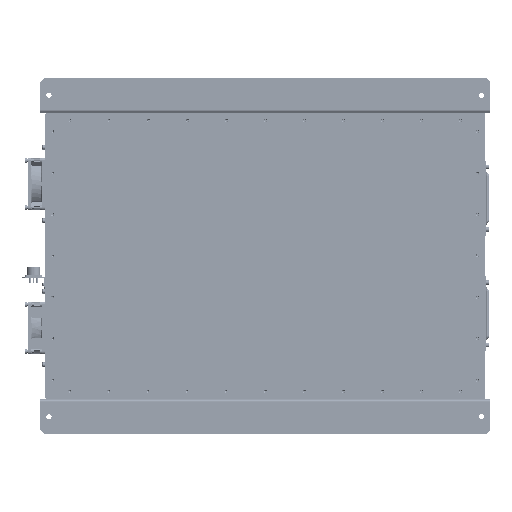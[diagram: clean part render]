
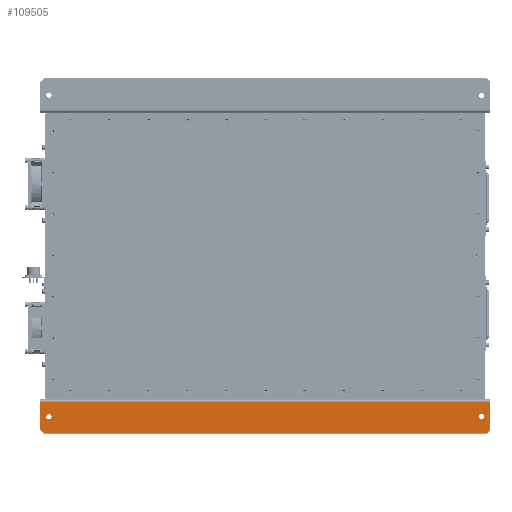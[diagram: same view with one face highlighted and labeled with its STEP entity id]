
A CAD part, top view. The second image highlights one B-rep face of the part: STEP entity #109505.
In plain terms, the highlighted planar face has unit normal (0, 0, 1).
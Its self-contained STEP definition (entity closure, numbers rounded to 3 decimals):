
#7876=LINE('',#170377,#16521);
#7880=LINE('',#170386,#16525);
#7890=LINE('',#170411,#16535);
#7896=LINE('',#170488,#16541);
#7901=LINE('',#170494,#16546);
#7903=LINE('',#170498,#16548);
#16521=VECTOR('',#138558,1000.);
#16525=VECTOR('',#138564,1000.);
#16535=VECTOR('',#138582,1000.);
#16541=VECTOR('',#138670,1000.);
#16546=VECTOR('',#138677,1000.);
#16548=VECTOR('',#138683,1000.);
#23226=PLANE('',#122251);
#34667=ORIENTED_EDGE('',*,*,#61841,.F.);
#34668=ORIENTED_EDGE('',*,*,#61792,.T.);
#34669=ORIENTED_EDGE('',*,*,#61843,.T.);
#34670=ORIENTED_EDGE('',*,*,#61788,.F.);
#34671=ORIENTED_EDGE('',*,*,#61836,.T.);
#34672=ORIENTED_EDGE('',*,*,#61803,.F.);
#34673=ORIENTED_EDGE('',*,*,#61833,.T.);
#34674=ORIENTED_EDGE('',*,*,#61831,.T.);
#61788=EDGE_CURVE('',#76146,#76147,#7876,.T.);
#61792=EDGE_CURVE('',#76151,#76150,#7880,.T.);
#61803=EDGE_CURVE('',#76160,#76162,#7890,.T.);
#61831=EDGE_CURVE('',#76189,#76189,#84737,.T.);
#61833=EDGE_CURVE('',#76191,#76191,#84739,.T.);
#61836=EDGE_CURVE('',#76146,#76162,#7896,.T.);
#61841=EDGE_CURVE('',#76151,#76160,#7901,.T.);
#61843=EDGE_CURVE('',#76150,#76147,#7903,.T.);
#76146=VERTEX_POINT('',#170376);
#76147=VERTEX_POINT('',#170378);
#76150=VERTEX_POINT('',#170385);
#76151=VERTEX_POINT('',#170387);
#76160=VERTEX_POINT('',#170409);
#76162=VERTEX_POINT('',#170412);
#76189=VERTEX_POINT('',#170479);
#76191=VERTEX_POINT('',#170484);
#84737=CIRCLE('',#122244,4.);
#84739=CIRCLE('',#122247,4.);
#90409=EDGE_LOOP('',(#34667,#34668,#34669,#34670,#34671,#34672));
#90410=EDGE_LOOP('',(#34673));
#90411=EDGE_LOOP('',(#34674));
#100147=FACE_BOUND('',#90409,.T.);
#100148=FACE_BOUND('',#90410,.T.);
#100149=FACE_BOUND('',#90411,.T.);
#109505=ADVANCED_FACE('',(#100147,#100148,#100149),#23226,.F.);
#122244=AXIS2_PLACEMENT_3D('',#170478,#138658,#138659);
#122247=AXIS2_PLACEMENT_3D('',#170483,#138664,#138665);
#122251=AXIS2_PLACEMENT_3D('',#170497,#138681,#138682);
#138558=DIRECTION('',(-0.707,-0.707,0.));
#138564=DIRECTION('',(0.707,-0.707,0.));
#138582=DIRECTION('',(1.,0.,0.));
#138658=DIRECTION('',(0.,0.,-1.));
#138659=DIRECTION('',(1.,0.,0.));
#138664=DIRECTION('',(0.,0.,-1.));
#138665=DIRECTION('',(1.,0.,0.));
#138670=DIRECTION('',(0.,1.,0.));
#138677=DIRECTION('',(0.,1.,0.));
#138681=DIRECTION('',(0.,0.,-1.));
#138682=DIRECTION('',(1.,0.,0.));
#138683=DIRECTION('',(1.,0.,0.));
#170376=CARTESIAN_POINT('',(342.,-265.,143.));
#170377=CARTESIAN_POINT('',(337.,-270.,143.));
#170378=CARTESIAN_POINT('',(337.,-270.,143.));
#170385=CARTESIAN_POINT('',(-337.,-270.,143.));
#170386=CARTESIAN_POINT('',(-342.,-265.,143.));
#170387=CARTESIAN_POINT('',(-342.,-265.,143.));
#170409=CARTESIAN_POINT('',(-342.,-222.,143.));
#170411=CARTESIAN_POINT('',(-342.,-222.,143.));
#170412=CARTESIAN_POINT('',(342.,-222.,143.));
#170478=CARTESIAN_POINT('',(329.,-244.5,143.));
#170479=CARTESIAN_POINT('',(333.,-244.5,143.));
#170483=CARTESIAN_POINT('',(-329.,-244.5,143.));
#170484=CARTESIAN_POINT('',(-325.,-244.5,143.));
#170488=CARTESIAN_POINT('',(342.,-270.,143.));
#170494=CARTESIAN_POINT('',(-342.,-270.,143.));
#170497=CARTESIAN_POINT('',(-342.,-270.,143.));
#170498=CARTESIAN_POINT('',(-342.,-270.,143.));
